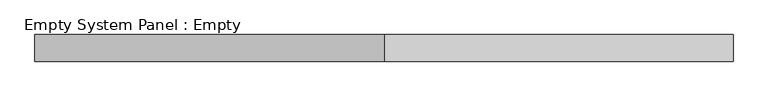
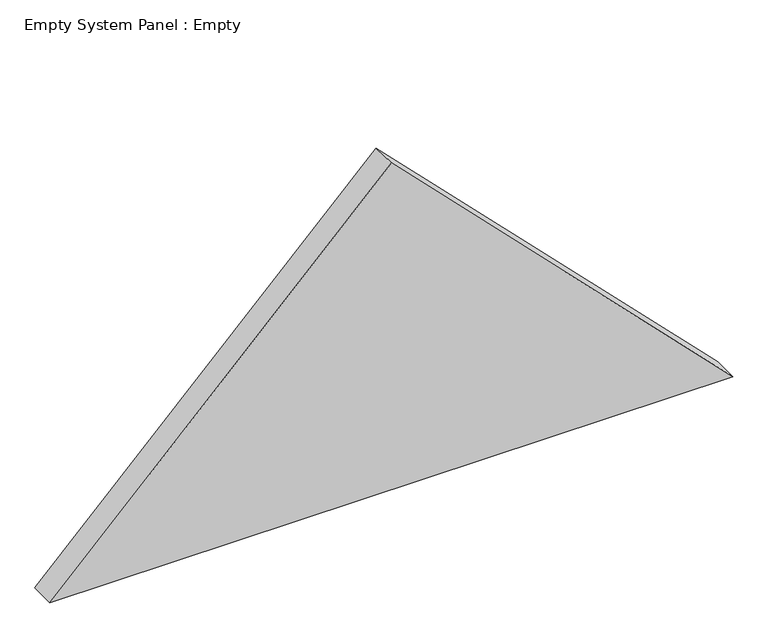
"""IFC4 building model written with IfcOpenShell, lengths in millimetres: plate geometry, Empty System Panel : Empty."""

from ifc_helpers import new_model, si_unit, frame, origin, place, context, project, spatial, polyline, outline, extrude, source, transform, mapped, element, save


def empty_system_panel_empty_f8857084(model_context):
    return source(origin(), model_context, "Body", "SweptSolid", [
        extrude(outline(polyline([(0.0, -1311.410615), (0.0, 1311.410615), (1326.0819174, 0.0), (0.0, -1311.410615)])), frame((0.0, -50.0, 0.0), z_axis=(0.0, 1.0, 0.0), x_axis=(0.0, 0.0, 1.0)), (0.0, 0.0, 1.0), 100.0),
    ])


if __name__ == "__main__":
    model = new_model("IFC4")
    model_context = context("Model", 3, world=origin())
    ifc_project = project(units=[si_unit("LENGTHUNIT", "METRE", prefix="MILLI")], contexts=[model_context])
    site = spatial("IfcSite", under=ifc_project)
    building = spatial("IfcBuilding", under=site)
    placement = place(None, origin())
    empty_system_panel_empty_shape = empty_system_panel_empty_f8857084(model_context)
    element("IfcPlate", 1, ObjectType="Empty System Panel : Empty", at=placement, inside=building, context=model_context, shape_type="MappedRepresentation", body=[
        mapped(empty_system_panel_empty_shape, transform((0.0, 0.0, 0.0), x_axis=(1.0, 0.0, 0.0), y_axis=(0.0, 1.0, 0.0), z_axis=(0.0, 0.0, 1.0))),
    ])
    save(model, "model.ifc")
